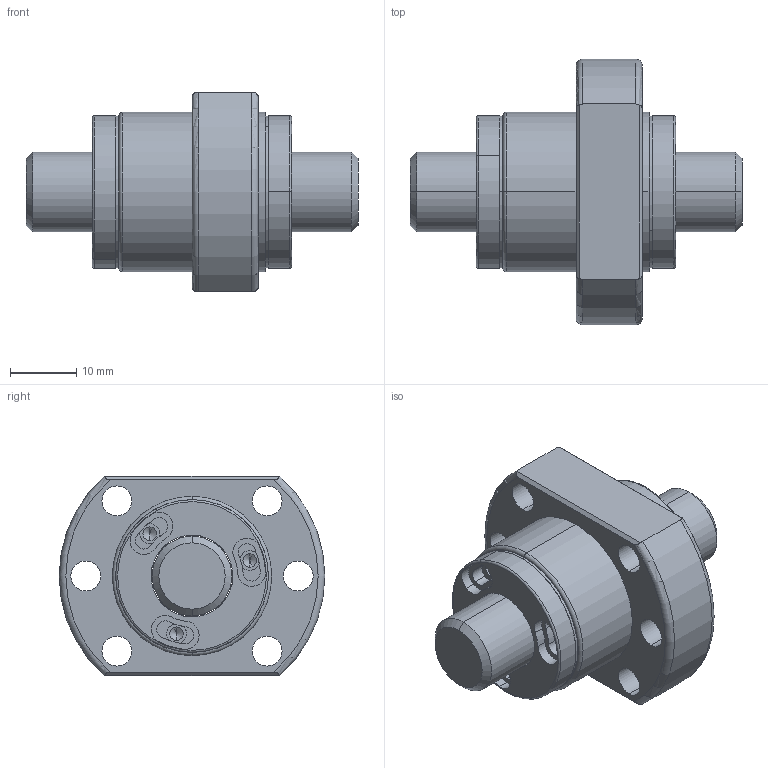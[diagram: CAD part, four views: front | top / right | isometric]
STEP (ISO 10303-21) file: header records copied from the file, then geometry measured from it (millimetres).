
FILE_DESCRIPTION (( 'STEP AP203' ), '1' );
FILE_NAME ('SFHR01205B1D-C.STEP', '2020-06-17T07:51:19', ( '' ), ( '' ), 'SwSTEP 2.0', 'SolidWorks 2013', '' );
FILE_SCHEMA (( 'CONFIG_CONTROL_DESIGN' ));
Length unit declared in the file: millimetre
Products named in the file (1): SFHR01205B1D-C
Bounding box: 50 x 40 x 30 mm (x, y, z)
Volume: 19551.3 mm3; surface area: 9081.2 mm2
Topology: 2 solids, 2 shells, 204 faces, 488 edges, 304 vertices
Faces by surface type: cylinder 122, plane 56, cone 16, torus 10
Entity records: 6127 total; most frequent: DIRECTION 1182, CARTESIAN_POINT 1089, ORIENTED_EDGE 952, AXIS2_PLACEMENT_3D 517, EDGE_CURVE 476, CIRCLE 312, VERTEX_POINT 304, EDGE_LOOP 246
